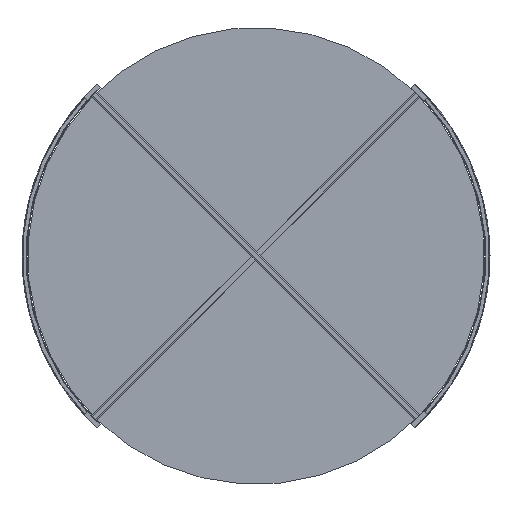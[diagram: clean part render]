
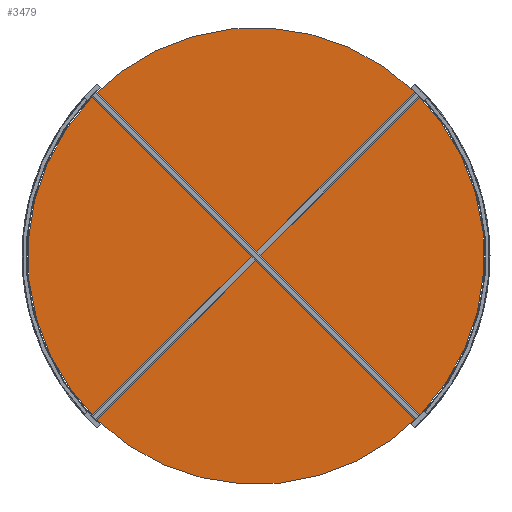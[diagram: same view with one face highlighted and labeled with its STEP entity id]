
A CAD part, front view. The second image highlights one B-rep face of the part: STEP entity #3479.
In plain terms, the highlighted planar face has unit normal (0, -1, 0).
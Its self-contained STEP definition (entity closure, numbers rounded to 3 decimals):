
#297 = CIRCLE ( 'NONE', #5485, 500. ) ;
#377 = EDGE_CURVE ( 'NONE', #5929, #710, #1355, .T. ) ;
#380 = DIRECTION ( 'NONE',  ( 0., -1., 0. ) ) ;
#710 = VERTEX_POINT ( 'NONE', #3783 ) ;
#1029 = EDGE_CURVE ( 'NONE', #710, #5929, #297, .T. ) ;
#1252 = EDGE_LOOP ( 'NONE', ( #5427, #5123 ) ) ;
#1355 = CIRCLE ( 'NONE', #4422, 500. ) ;
#1373 = FACE_OUTER_BOUND ( 'NONE', #1252, .T. ) ;
#1460 = CARTESIAN_POINT ( 'NONE',  ( 0., 0., 500. ) ) ;
#2631 = DIRECTION ( 'NONE',  ( 0., 0., -1. ) ) ;
#3199 = PLANE ( 'NONE',  #5398 ) ;
#3479 = ADVANCED_FACE ( 'NONE', ( #1373 ), #3199, .T. ) ;
#3777 = CARTESIAN_POINT ( 'NONE',  ( 0., 0., 0. ) ) ;
#3783 = CARTESIAN_POINT ( 'NONE',  ( 0., 0., -500. ) ) ;
#3809 = DIRECTION ( 'NONE',  ( 0., -1., 0. ) ) ;
#3931 = CARTESIAN_POINT ( 'NONE',  ( 0., 0., 0. ) ) ;
#4283 = DIRECTION ( 'NONE',  ( 0., 0., -1. ) ) ;
#4422 = AXIS2_PLACEMENT_3D ( 'NONE', #3931, #4443, #6699 ) ;
#4443 = DIRECTION ( 'NONE',  ( 0., -1., 0. ) ) ;
#5123 = ORIENTED_EDGE ( 'NONE', *, *, #377, .T. ) ;
#5398 = AXIS2_PLACEMENT_3D ( 'NONE', #5440, #380, #2631 ) ;
#5427 = ORIENTED_EDGE ( 'NONE', *, *, #1029, .T. ) ;
#5440 = CARTESIAN_POINT ( 'NONE',  ( 0., 0., 0. ) ) ;
#5485 = AXIS2_PLACEMENT_3D ( 'NONE', #3777, #3809, #4283 ) ;
#5929 = VERTEX_POINT ( 'NONE', #1460 ) ;
#6699 = DIRECTION ( 'NONE',  ( 0., 0., -1. ) ) ;
